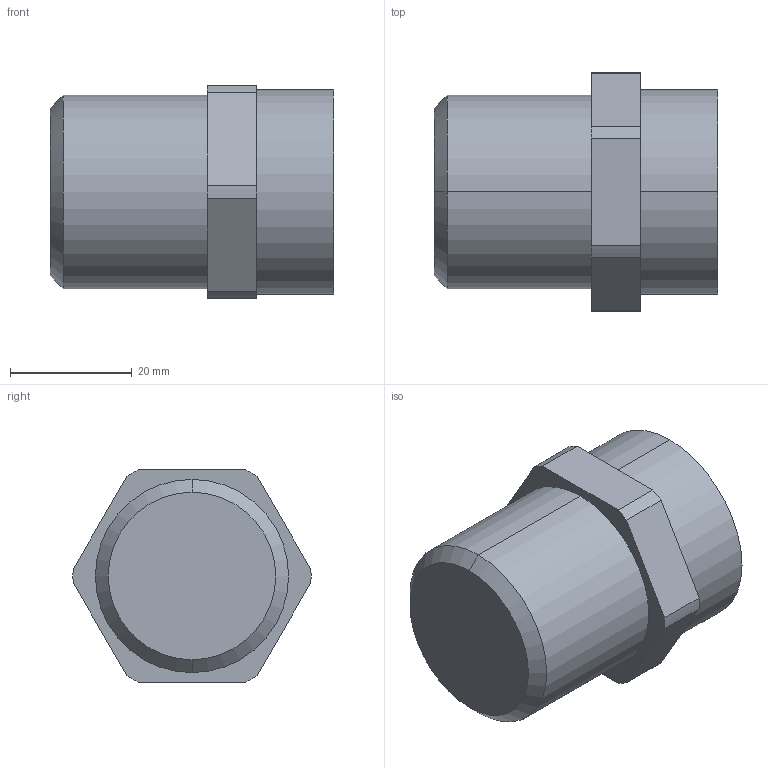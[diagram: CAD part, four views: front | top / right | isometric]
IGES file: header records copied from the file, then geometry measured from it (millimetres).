
Start section: SolidWorks IGES file using analytic representation for surfaces
Global section: file name: S:\Product Visuals\Defeatured Models and Parts Library\Parts Library IGES & STEP\Liquid Fittings\Front Mount liquid Fittings\Weldable\60LPM\Fitting Weldable 16.IGS; native system: SolidWorks 2012; preprocessor: SolidWorks 2012; author: rachel.dressel; date: 120927.082102; units: inch
Bounding box: 46.58 x 39.11 x 34.92 mm (x, y, z)
Volume: 32864 mm3; surface area: 7913.5 mm2
Topology: 1 solids, 1 shells, 25 faces, 58 edges, 38 vertices
Faces by surface type: revolution 14, plane 11
